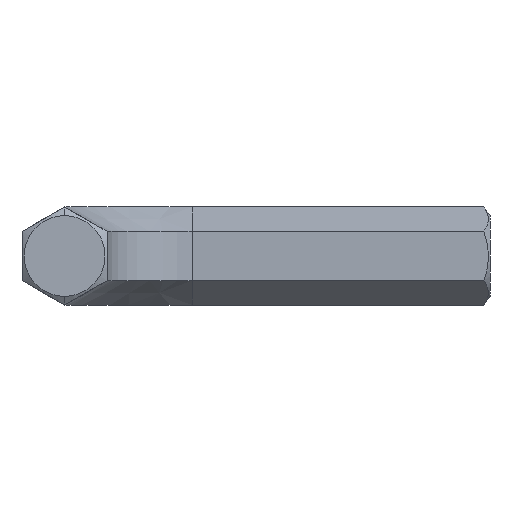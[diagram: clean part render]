
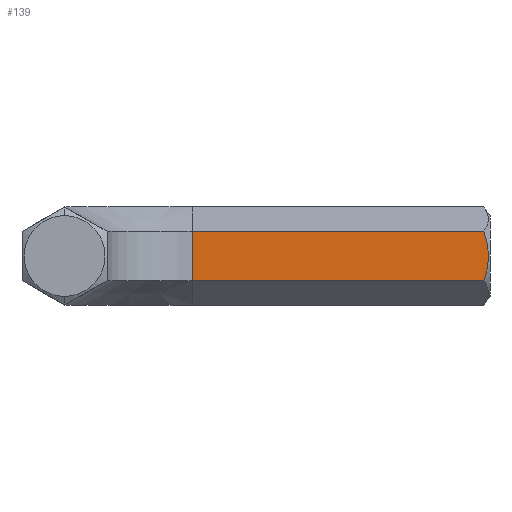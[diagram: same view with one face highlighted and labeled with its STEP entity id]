
A CAD part, left-side view. The second image highlights one B-rep face of the part: STEP entity #139.
In plain terms, the highlighted planar face has unit normal (-1, 0, 0).
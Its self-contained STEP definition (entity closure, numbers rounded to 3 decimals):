
#16 = CARTESIAN_POINT ( 'NONE',  ( -4., 28., 2.309 ) ) ;
#24 = EDGE_LOOP ( 'NONE', ( #600, #313, #359, #597 ) ) ;
#58 = LINE ( 'NONE', #113, #320 ) ;
#81 = CARTESIAN_POINT ( 'NONE',  ( -4., 0.142, -0.393 ) ) ;
#82 = VERTEX_POINT ( 'NONE', #261 ) ;
#113 = CARTESIAN_POINT ( 'NONE',  ( -4., 28., -2.309 ) ) ;
#127 = CARTESIAN_POINT ( 'NONE',  ( -4., 0.445, 1.939 ) ) ;
#139 = ADVANCED_FACE ( 'NONE', ( #553 ), #446, .F. ) ;
#176 = CARTESIAN_POINT ( 'NONE',  ( -4., 28., -2.309 ) ) ;
#244 = CARTESIAN_POINT ( 'NONE',  ( -4., 0.142, 0.194 ) ) ;
#248 = VERTEX_POINT ( 'NONE', #698 ) ;
#254 = CARTESIAN_POINT ( 'NONE',  ( -4., 0.191, 0.782 ) ) ;
#258 = EDGE_CURVE ( 'NONE', #510, #248, #293, .T. ) ;
#261 = CARTESIAN_POINT ( 'NONE',  ( -4., 0.575, -2.309 ) ) ;
#293 = LINE ( 'NONE', #176, #431 ) ;
#313 = ORIENTED_EDGE ( 'NONE', *, *, #592, .F. ) ;
#320 = VECTOR ( 'NONE', #567, 1000. ) ;
#359 = ORIENTED_EDGE ( 'NONE', *, *, #258, .F. ) ;
#361 = CARTESIAN_POINT ( 'NONE',  ( -4., 0.152, 0.39 ) ) ;
#401 = EDGE_CURVE ( 'NONE', #454, #82, #484, .T. ) ;
#431 = VECTOR ( 'NONE', #451, 1000. ) ;
#443 = CARTESIAN_POINT ( 'NONE',  ( -4., 28., -2.309 ) ) ;
#446 = PLANE ( 'NONE',  #722 ) ;
#451 = DIRECTION ( 'NONE',  ( 0., 0., 1. ) ) ;
#454 = VERTEX_POINT ( 'NONE', #530 ) ;
#471 = CARTESIAN_POINT ( 'NONE',  ( -4., 0.183, -0.784 ) ) ;
#474 = CARTESIAN_POINT ( 'NONE',  ( -4., 0.336, 1.561 ) ) ;
#481 = DIRECTION ( 'NONE',  ( 0., -1., 0. ) ) ;
#483 = CARTESIAN_POINT ( 'NONE',  ( -4., 0.575, 2.309 ) ) ;
#484 = B_SPLINE_CURVE_WITH_KNOTS ( 'NONE', 3,
 ( #483, #127, #474, #705, #254, #361, #244, #81, #471, #700, #539, #526 ),
 .UNSPECIFIED., .F., .F.,
 ( 4, 2, 2, 2, 2, 4 ),
 ( 0.005, 0.006, 0.007, 0.008, 0.009, 0.01 ),
 .UNSPECIFIED. ) ;
#496 = CARTESIAN_POINT ( 'NONE',  ( -4., 28., -2.309 ) ) ;
#510 = VERTEX_POINT ( 'NONE', #443 ) ;
#526 = CARTESIAN_POINT ( 'NONE',  ( -4., 0.575, -2.309 ) ) ;
#530 = CARTESIAN_POINT ( 'NONE',  ( -4., 0.575, 2.309 ) ) ;
#531 = EDGE_CURVE ( 'NONE', #510, #82, #58, .T. ) ;
#539 = CARTESIAN_POINT ( 'NONE',  ( -4., 0.446, -1.941 ) ) ;
#543 = DIRECTION ( 'NONE',  ( 0., 0., -1. ) ) ;
#553 = FACE_OUTER_BOUND ( 'NONE', #24, .T. ) ;
#567 = DIRECTION ( 'NONE',  ( 0., -1., 0. ) ) ;
#592 = EDGE_CURVE ( 'NONE', #248, #454, #651, .T. ) ;
#597 = ORIENTED_EDGE ( 'NONE', *, *, #531, .T. ) ;
#600 = ORIENTED_EDGE ( 'NONE', *, *, #401, .F. ) ;
#651 = LINE ( 'NONE', #16, #738 ) ;
#698 = CARTESIAN_POINT ( 'NONE',  ( -4., 28., 2.309 ) ) ;
#700 = CARTESIAN_POINT ( 'NONE',  ( -4., 0.337, -1.563 ) ) ;
#705 = CARTESIAN_POINT ( 'NONE',  ( -4., 0.221, 0.979 ) ) ;
#722 = AXIS2_PLACEMENT_3D ( 'NONE', #496, #732, #543 ) ;
#732 = DIRECTION ( 'NONE',  ( 1., 0., 0. ) ) ;
#738 = VECTOR ( 'NONE', #481, 1000. ) ;
